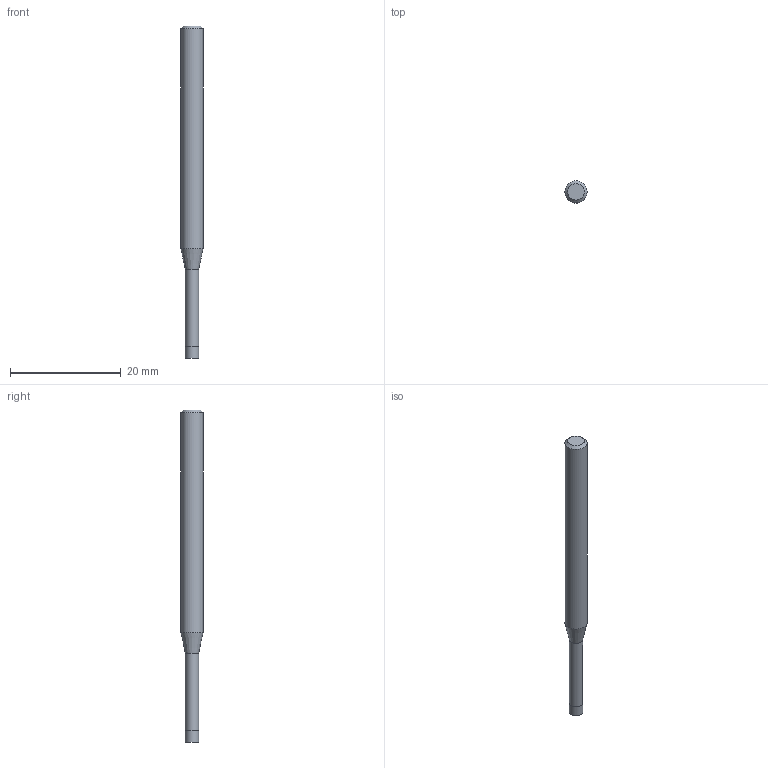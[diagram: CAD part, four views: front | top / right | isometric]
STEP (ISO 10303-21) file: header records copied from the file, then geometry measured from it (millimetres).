
FILE_DESCRIPTION((''),'2;1');
FILE_NAME('C:\Users\nsx150\AppData\Local\Temp\Mastercam 2021\3SYKECWX22\TEMP.step','2021-04-22T09:39:29',(''),(''),'STEP Write','Mastercam 2021 ... CNC Software, Inc.','');
FILE_SCHEMA(('AUTOMOTIVE_DESIGN'));
Length unit declared in the file: millimetre
Products named in the file (1): None
Bounding box: 4 x 4 x 60 mm (x, y, z)
Volume: 608.2 mm3; surface area: 688.5 mm2
Topology: 2 solids, 2 shells, 9 faces, 12 edges, 7 vertices
Faces by surface type: plane 4, cylinder 3, cone 2
Full cylindrical faces by diameter (mm): 2.4 x1, 2.5 x1, 4 x1
Entity records: 211 total; most frequent: DIRECTION 36, CARTESIAN_POINT 25, AXIS2_PLACEMENT_3D 18, ORIENTED_EDGE 14, EDGE_LOOP 14, STYLED_ITEM 12, ADVANCED_FACE 9, FACE_BOUND 8
